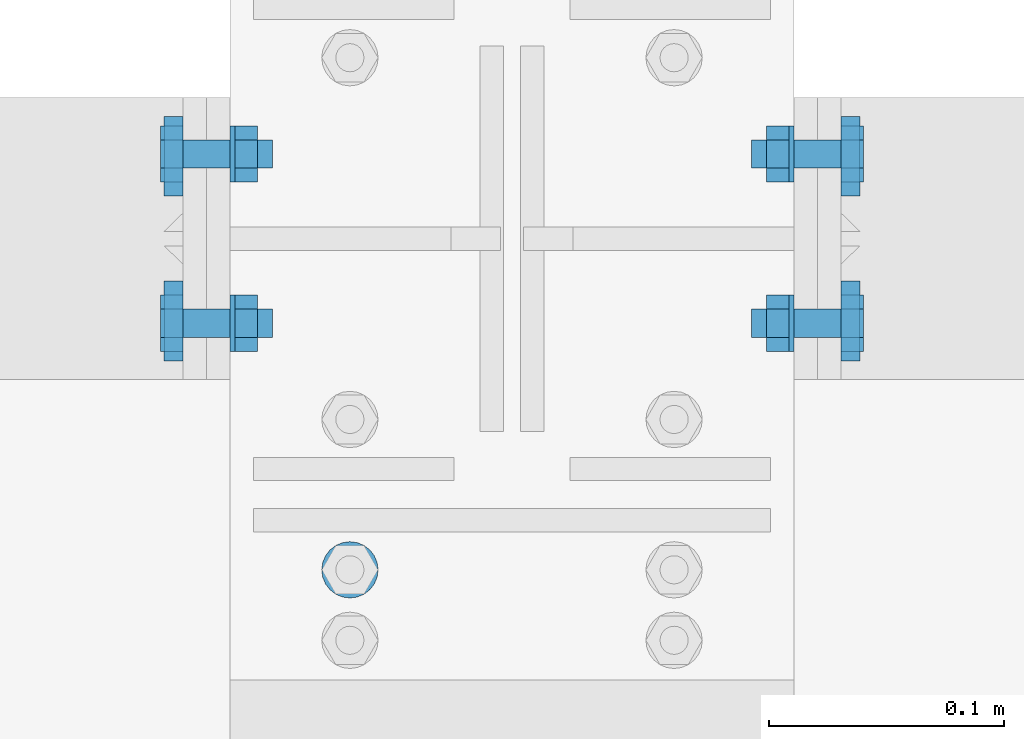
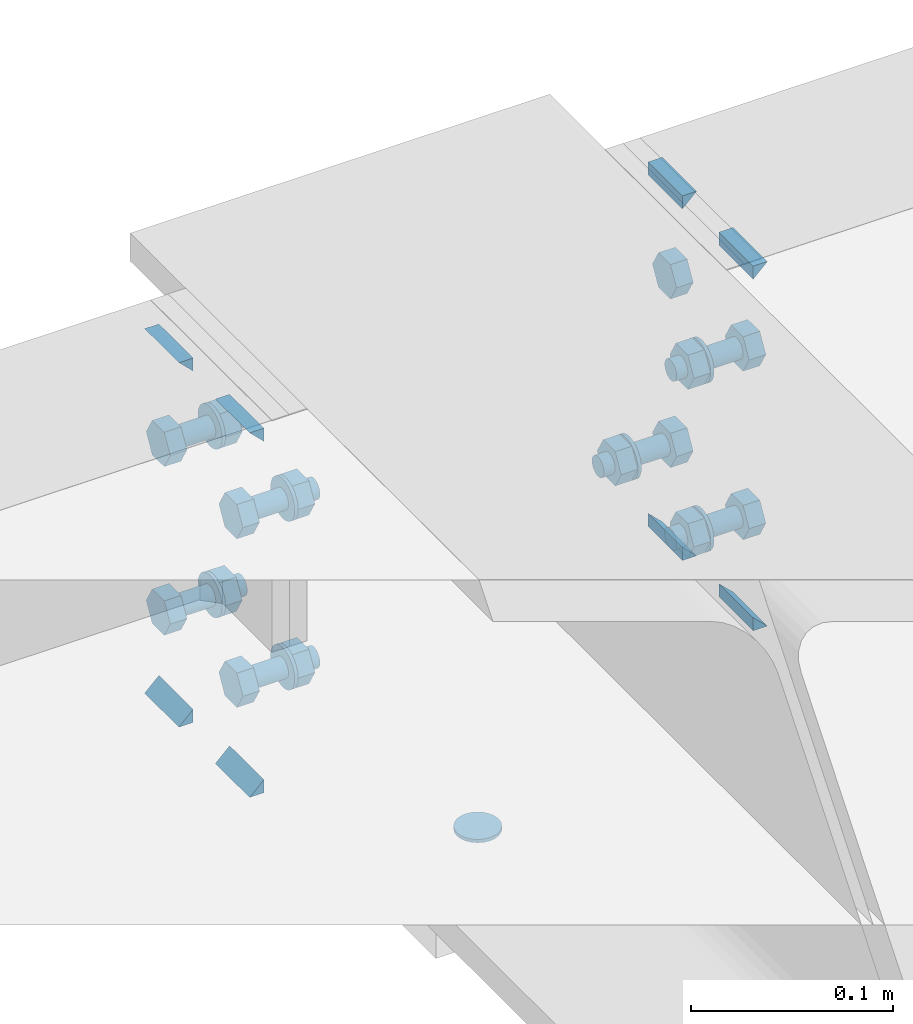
# One storey, part 45 of 66: 30 mechanical fasteners, 16 fasteners.
"""IFC4 building model written with IfcOpenShell, lengths in metres."""

import ifcopenshell
import ifcopenshell.guid

model = None  # the IFC model being written
_history = None  # IfcOwnerHistory: only IFC2X3 demands one
_inside = {}  # id of a spatial element -> (the spatial element, [elements in it])
_under = {}  # id of a project, library or spatial element -> (it, [spatial elements below it])
_declared = {}  # id of a project -> (the project, [libraries it declares])
_typed = {}  # id of a type object -> (the type object, [elements of that type])
_made_of = {}  # id of a material, layer set ... -> (it, [elements and type objects made of it])


def new_model(schema):
    """Start an empty IFC model of exactly this schema.

    Asked for "IFC4X3", IfcOpenShell would pick the latest addendum, in which some entities
    have other attributes; the version numbers below select the first issue.
    IFC2X3 requires an IfcOwnerHistory on every rooted entity: one is made here for all.
    """
    global model, _history
    if schema == "IFC4X3":
        model = ifcopenshell.file(schema_version=(4, 3, 0, 0))
    else:
        model = ifcopenshell.file(schema=schema)
    _inside.clear()
    _under.clear()
    _declared.clear()
    _typed.clear()
    _made_of.clear()
    _history = None
    if model.schema == "IFC2X3":
        org = make("IfcOrganization", Name="unknown")
        user = make(
            "IfcPersonAndOrganization",
            ThePerson=make("IfcPerson", FamilyName="unknown"),
            TheOrganization=org,
        )
        app = make(
            "IfcApplication",
            ApplicationDeveloper=org,
            Version="unknown",
            ApplicationFullName="unknown",
            ApplicationIdentifier="unknown",
        )
        _history = make(
            "IfcOwnerHistory",
            OwningUser=user,
            OwningApplication=app,
            ChangeAction="ADDED",
            CreationDate=0,
        )
    return model


def make(cls, **values):
    """One entity of the class cls with the attributes given. An attribute that is None is left unset."""
    return model.create_entity(
        cls, **{name: value for name, value in values.items() if value is not None}
    )


def rooted(cls, **values):
    """An entity with a GlobalId (a new one), such as an element, a storey or a relation."""
    return make(cls, GlobalId=ifcopenshell.guid.new(), OwnerHistory=_history, **values)


def si_unit(unit_type, name, prefix=None):
    """IfcSIUnit, for example si_unit("LENGTHUNIT", "METRE", prefix="MILLI")."""
    return make("IfcSIUnit", UnitType=unit_type, Prefix=prefix, Name=name)


def assignment(units):
    """IfcUnitAssignment: the units of a project."""
    return None if units is None else make("IfcUnitAssignment", Units=units)


def point(xyz):
    """IfcCartesianPoint."""
    return None if xyz is None else make("IfcCartesianPoint", Coordinates=xyz)


def direction(xyz):
    """IfcDirection."""
    return None if xyz is None else make("IfcDirection", DirectionRatios=xyz)


def frame(location, z_axis=None, x_axis=None):
    """IfcAxis2Placement3D, a coordinate frame: its origin and axes. An axis left out is left unset."""
    return make(
        "IfcAxis2Placement3D",
        Location=point(location),
        Axis=direction(z_axis),
        RefDirection=direction(x_axis),
    )


def origin_with_axes():
    """The frame at (0, 0, 0) with the z axis (0, 0, 1) and the x axis (1, 0, 0) written out."""
    return frame((0.0, 0.0, 0.0), z_axis=(0.0, 0.0, 1.0), x_axis=(1.0, 0.0, 0.0))


def place(relative_to, where):
    """IfcLocalPlacement: puts the frame where relative to a parent placement (None: the world)."""
    return make(
        "IfcLocalPlacement", PlacementRelTo=relative_to, RelativePlacement=where
    )


def context(
    kind, dimensions, precision=None, world=None, true_north=None, identifier=None
):
    """IfcGeometricRepresentationContext, for example the 3D "Model" context."""
    return make(
        "IfcGeometricRepresentationContext",
        ContextIdentifier=identifier,
        ContextType=kind,
        CoordinateSpaceDimension=dimensions,
        Precision=precision,
        WorldCoordinateSystem=world,
        TrueNorth=true_north,
    )


def project(units=None, contexts=None):
    """IfcProject with its units and contexts."""
    return rooted(
        "IfcProject",
        Name="project",
        RepresentationContexts=contexts,
        UnitsInContext=assignment(units),
    )


def spatial(cls, under=None, at=None, **own):
    """A site, building, storey or space (cls), placed at a placement, below another one or the project."""
    s = rooted(cls, ObjectPlacement=at, **own)
    if under is not None:
        _under.setdefault(under.id(), (under, []))[1].append(s)
    return s


def polyline(points):
    """IfcPolyline through the points."""
    return make("IfcPolyline", Points=[point(p) for p in points])


def outline(outer, holes=None, kind="AREA"):
    """IfcArbitraryClosedProfileDef: a profile drawn as a closed curve; with holes, ...WithVoids."""
    if holes is None:
        return make("IfcArbitraryClosedProfileDef", ProfileType=kind, OuterCurve=outer)
    return make(
        "IfcArbitraryProfileDefWithVoids",
        ProfileType=kind,
        OuterCurve=outer,
        InnerCurves=holes,
    )


def extrude(swept, where, along, depth):
    """IfcExtrudedAreaSolid: the profile swept, set in the frame where, extruded along a direction by depth."""
    return make(
        "IfcExtrudedAreaSolid",
        SweptArea=swept,
        Position=where,
        ExtrudedDirection=direction(along),
        Depth=depth,
    )


def shape(context_of_items, identifier, shape_type, items):
    """IfcShapeRepresentation: the items that make up one representation, for example the "Body"."""
    return make(
        "IfcShapeRepresentation",
        ContextOfItems=context_of_items,
        RepresentationIdentifier=identifier,
        RepresentationType=shape_type,
        Items=items,
    )


def made_of(thing, what):
    """Note that an element or type object is made of a material, layer set ...; save() writes the relation."""
    if what is not None:
        _made_of.setdefault(what.id(), (what, []))[1].append(thing)
    return thing


def type_object(cls, material=None, **own):
    """A type object (cls), such as IfcWallType, which elements share."""
    return made_of(rooted(cls, **own), material)


def element(
    cls,
    number,
    at=None,
    inside=None,
    cuts=None,
    type_object=None,
    material=None,
    context=None,
    identifier="Body",
    shape_type=None,
    held_by="IfcProductDefinitionShape",
    body=None,
    shapes=None,
    **own,
):
    """One element of the class cls, such as IfcWall. Its Tag is "e" and its number.

    at: its placement. inside: the storey or other place that contains it. cuts: it is an
    opening in that element (IfcRelVoidsElement). A single representation is given by context,
    identifier, shape_type and body (its items); several are given by shapes. held_by: the class
    of the entity that holds the representations. save() writes the other relations.
    """
    e = rooted(cls, Tag="e%d" % number, ObjectPlacement=at, **own)
    if body is not None:
        shapes = [shape(context, identifier, shape_type, body)]
    if shapes is not None:
        e.Representation = make(held_by, Representations=shapes)
    if inside is not None:
        _inside.setdefault(inside.id(), (inside, []))[1].append(e)
    if cuts is not None:
        rooted(
            "IfcRelVoidsElement", RelatingBuildingElement=cuts, RelatedOpeningElement=e
        )
    if type_object is not None:
        _typed.setdefault(type_object.id(), (type_object, []))[1].append(e)
    return made_of(e, material)


def aggregate(whole, parts):
    """IfcRelAggregates: a whole, such as a stair, and the parts it consists of."""
    return rooted("IfcRelAggregates", RelatingObject=whole, RelatedObjects=parts)


def save(model, path):
    """Write the relations noted so far, then the file.

    IfcRelAggregates (storeys below a building ...), IfcRelContainedInSpatialStructure (elements
    in a storey), IfcRelDefinesByType, IfcRelAssociatesMaterial and IfcRelDeclares: one each for
    every whole, place, type object, material and project.
    """
    for whole, parts in _under.values():
        aggregate(whole, parts)
    for where, things in _inside.values():
        rooted(
            "IfcRelContainedInSpatialStructure",
            RelatedElements=things,
            RelatingStructure=where,
        )
    for kind, things in _typed.values():
        rooted("IfcRelDefinesByType", RelatedObjects=things, RelatingType=kind)
    for what, things in _made_of.values():
        rooted("IfcRelAssociatesMaterial", RelatedObjects=things, RelatingMaterial=what)
    for by, libraries in _declared.values():
        rooted("IfcRelDeclares", RelatingContext=by, RelatedDefinitions=libraries)
    model.write(path)


model = new_model("IFC4")

# Units and contexts
model_context = context("Model", 3, precision=1e-05, world=origin_with_axes())
ifc_project = project(units=[si_unit("LENGTHUNIT", "METRE"), si_unit("AREAUNIT", "SQUARE_METRE"), si_unit("VOLUMEUNIT", "CUBIC_METRE"), si_unit("MASSUNIT", "GRAM", prefix="KILO"), si_unit("TIMEUNIT", "SECOND"), si_unit("PLANEANGLEUNIT", "RADIAN"), si_unit("SOLIDANGLEUNIT", "STERADIAN"), si_unit("THERMODYNAMICTEMPERATUREUNIT", "DEGREE_CELSIUS")], contexts=[model_context])

# Site, building, storey
placement_1 = place(None, origin_with_axes())
site = spatial("IfcSite", under=ifc_project, at=placement_1, Name="Italia", CompositionType="ELEMENT")
building = spatial("IfcBuilding", under=site, at=placement_1, Name="Uffici", CompositionType="ELEMENT")
storey_placement = place(None, frame((0.0, 0.0, 3.299999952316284), z_axis=(0.0, 0.0, 1.0), x_axis=(1.0, 0.0, 0.0)))
storey = spatial("IfcBuildingStorey", under=building, at=storey_placement, Name="Storey 1", CompositionType="ELEMENT", Elevation=3.299999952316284)

# Mechanical fastener
mechanical_fastener_type_1 = type_object("IfcMechanicalFastenerType", Name="Collegamenti 0111_0011 0112_0012 0113_0013 0114_0014 0115_0015", PredefinedType="BOLT")
placement_2 = place(placement_1, origin_with_axes())
mechanical_fastener_1_placement = place(placement_2, origin_with_axes())
element("IfcMechanicalFastener", 1, at=mechanical_fastener_1_placement, inside=storey, type_object=mechanical_fastener_type_1, Name="Collegamenti 0111_0011 0112_0012 0113_0013 0114_0014 0115_0015", NominalDiameter=0.024, context=model_context, shape_type="SweptSolid", body=[
    extrude(outline(polyline([(0.0, 0.0), (-0.000409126, -0.00310588), (-0.00160789, -0.00600004), (-0.00351477, -0.00848532), (-0.00600004, -0.0103922), (-0.00889444, -0.0115912), (-0.0120001, -0.0120001), (-0.0151057, -0.0115912), (-0.0180001, -0.0103922), (-0.0204854, -0.00848532), (-0.0223923, -0.00600004), (-0.023591, -0.00310588), (-0.0240002, 0.0), (-0.023591, 0.00310588), (-0.0223923, 0.00600004), (-0.0204854, 0.00848532), (-0.0180001, 0.0103922), (-0.0151057, 0.0115912), (-0.0120001, 0.0120001), (-0.00889444, 0.0115912), (-0.00600004, 0.0103922), (-0.00351477, 0.00848532), (-0.00160789, 0.00600004), (-0.000409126, 0.00310588), (0.0, 0.0)])), frame((3.136, 5.261, 3.079), z_axis=(0.0, 0.0, -1.0), x_axis=(0.0, 1.0, 0.0)), (0.0, 0.0, 1.0), 0.00200009),
])

# Fasteners
fastener_type_1 = type_object("IfcFastenerType", Name="Collegamento 0112_0111", PredefinedType="WELD")
fastener_1_placement = place(placement_2, origin_with_axes())
element("IfcFastener", 2, at=fastener_1_placement, inside=storey, type_object=fastener_type_1, Name="Collegamento 0112_0111", context=model_context, shape_type="SweptSolid", body=[
    extrude(outline(polyline([(0.0, 0.0), (-0.00817347, 0.00792813), (0.0, 0.00792813), (0.0, 0.0)])), frame((3.06505, 5.37195, 3.28232), z_axis=(0.0, -1.0, 0.0), x_axis=(1.0, 0.0, 0.0)), (0.0, 0.0, 1.0), 0.0340004),
])
fastener_type_2 = type_object("IfcFastenerType", Name="Collegamento 0112_0111", PredefinedType="WELD")
fastener_2_placement = place(placement_2, origin_with_axes())
element("IfcFastener", 3, at=fastener_2_placement, inside=storey, type_object=fastener_type_2, Name="Collegamento 0112_0111", context=model_context, shape_type="SweptSolid", body=[
    extrude(outline(polyline([(0.0, 0.0), (0.00817347, -0.00792813), (0.0, -0.00792813), (0.0, 0.0)])), frame((3.06505, 5.33795, 3.07768), z_axis=(0.0, 1.0, 0.0), x_axis=(-1.0, 0.0, 0.0)), (0.0, 0.0, 1.0), 0.0340004),
])
fastener_type_3 = type_object("IfcFastenerType", Name="Collegamento 0112_0111", PredefinedType="WELD")
fastener_3_placement = place(placement_2, origin_with_axes())
element("IfcFastener", 4, at=fastener_3_placement, inside=storey, type_object=fastener_type_3, Name="Collegamento 0112_0111", context=model_context, shape_type="SweptSolid", body=[
    extrude(outline(polyline([(0.0, 0.0), (0.00817347, -0.00792813), (0.0, -0.00792813), (0.0, 0.0)])), frame((3.06505, 5.40805, 3.07768), z_axis=(0.0, 1.0, 0.0), x_axis=(-1.0, 0.0, 0.0)), (0.0, 0.0, 1.0), 0.0340004),
])
fastener_type_4 = type_object("IfcFastenerType", Name="Collegamento 0112_0111", PredefinedType="WELD")
fastener_4_placement = place(placement_2, origin_with_axes())
element("IfcFastener", 5, at=fastener_4_placement, inside=storey, type_object=fastener_type_4, Name="Collegamento 0112_0111", context=model_context, shape_type="SweptSolid", body=[
    extrude(outline(polyline([(0.0, 0.0), (-0.00817347, 0.00792813), (0.0, 0.00792813), (0.0, 0.0)])), frame((3.06505, 5.44205, 3.28232), z_axis=(0.0, -1.0, 0.0), x_axis=(1.0, 0.0, 0.0)), (0.0, 0.0, 1.0), 0.0340004),
])
fastener_type_5 = type_object("IfcFastenerType", Name="Collegamento 0112_0111", PredefinedType="WELD")
fastener_5_placement = place(placement_2, origin_with_axes())
element("IfcFastener", 6, at=fastener_5_placement, inside=storey, type_object=fastener_type_5, Name="Collegamento 0112_0111", context=model_context, shape_type="SweptSolid", body=[
    extrude(outline(polyline([(0.0, 0.0), (-0.00817347, 0.00792813), (0.0, 0.00792813), (0.0, 0.0)])), frame((3.06505, 5.37195, 3.28232), z_axis=(0.0, -1.0, 0.0), x_axis=(1.0, 0.0, 0.0)), (0.0, 0.0, 1.0), 0.0340004),
])
fastener_type_6 = type_object("IfcFastenerType", Name="Collegamento 0112_0111", PredefinedType="WELD")
fastener_6_placement = place(placement_2, origin_with_axes())
element("IfcFastener", 7, at=fastener_6_placement, inside=storey, type_object=fastener_type_6, Name="Collegamento 0112_0111", context=model_context, shape_type="SweptSolid", body=[
    extrude(outline(polyline([(0.0, 0.0), (0.00817347, -0.00792813), (0.0, -0.00792813), (0.0, 0.0)])), frame((3.06505, 5.33795, 3.07768), z_axis=(0.0, 1.0, 0.0), x_axis=(-1.0, 0.0, 0.0)), (0.0, 0.0, 1.0), 0.0340004),
])
fastener_type_7 = type_object("IfcFastenerType", Name="Collegamento 0112_0111", PredefinedType="WELD")
fastener_7_placement = place(placement_2, origin_with_axes())
element("IfcFastener", 8, at=fastener_7_placement, inside=storey, type_object=fastener_type_7, Name="Collegamento 0112_0111", context=model_context, shape_type="SweptSolid", body=[
    extrude(outline(polyline([(0.0, 0.0), (0.00817347, -0.00792813), (0.0, -0.00792813), (0.0, 0.0)])), frame((3.06505, 5.40805, 3.07768), z_axis=(0.0, 1.0, 0.0), x_axis=(-1.0, 0.0, 0.0)), (0.0, 0.0, 1.0), 0.0340004),
])
fastener_type_8 = type_object("IfcFastenerType", Name="Collegamento 0112_0111", PredefinedType="WELD")
fastener_8_placement = place(placement_2, origin_with_axes())
element("IfcFastener", 9, at=fastener_8_placement, inside=storey, type_object=fastener_type_8, Name="Collegamento 0112_0111", context=model_context, shape_type="SweptSolid", body=[
    extrude(outline(polyline([(0.0, 0.0), (-0.00817347, 0.00792813), (0.0, 0.00792813), (0.0, 0.0)])), frame((3.06505, 5.44205, 3.28232), z_axis=(0.0, -1.0, 0.0), x_axis=(1.0, 0.0, 0.0)), (0.0, 0.0, 1.0), 0.0340004),
])

# Mechanical fasteners
mechanical_fastener_type_2 = type_object("IfcMechanicalFastenerType", Name="Collegamento 0112_0111", PredefinedType="BOLT")
mechanical_fastener_2_placement = place(placement_2, origin_with_axes())
element("IfcMechanicalFastener", 10, at=mechanical_fastener_2_placement, inside=storey, type_object=mechanical_fastener_type_2, Name="Collegamento 0112_0111", NominalDiameter=0.0119996, context=model_context, shape_type="SweptSolid", body=[
    extrude(outline(polyline([(0.0, 0.0), (-0.0119996, 0.0), (-0.0179996, 0.0103922), (-0.0119996, 0.0207846), (0.0, 0.0207846), (0.00600004, 0.0103922), (0.0, 0.0)])), frame((3.065, 5.42, 3.11861), z_axis=(-1.0, 0.0, 0.0), x_axis=(0.0, -1.0, 0.0)), (0.0, 0.0, 1.0), 0.00959992),
])
mechanical_fastener_type_3 = type_object("IfcMechanicalFastenerType", Name="Collegamento 0112_0111", PredefinedType="BOLT")
mechanical_fastener_3_placement = place(placement_2, origin_with_axes())
element("IfcMechanicalFastener", 11, at=mechanical_fastener_3_placement, inside=storey, type_object=mechanical_fastener_type_3, Name="Collegamento 0112_0111", NominalDiameter=0.012, context=model_context, shape_type="SweptSolid", body=[
    extrude(outline(polyline([(0.0, 0.0), (-0.000204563, -0.00155282), (-0.000803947, -0.00300002), (-0.00175762, -0.00424266), (-0.00300026, -0.00519609), (-0.00444698, -0.00579548), (-0.00600004, -0.00600004), (-0.0075531, -0.00579548), (-0.00899982, -0.00519609), (-0.0102425, -0.00424266), (-0.0111961, -0.00300002), (-0.0117955, -0.00155282), (-0.0120001, 0.0), (-0.0117955, 0.00155282), (-0.0111961, 0.00300002), (-0.0102425, 0.00424266), (-0.00899982, 0.00519609), (-0.0075531, 0.00579548), (-0.00600004, 0.00600004), (-0.00444698, 0.00579548), (-0.00300026, 0.00519609), (-0.00175762, 0.00424266), (-0.000803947, 0.00300002), (-0.000204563, 0.00155282), (0.0, 0.0)])), frame((3.103, 5.42, 3.129), z_axis=(-1.0, 0.0, 0.0), x_axis=(0.0, -1.0, 0.0)), (0.0, 0.0, 1.0), 0.0379999),
])
mechanical_fastener_type_4 = type_object("IfcMechanicalFastenerType", Name="Collegamento 0112_0111", PredefinedType="BOLT")
mechanical_fastener_4_placement = place(placement_2, origin_with_axes())
element("IfcMechanicalFastener", 12, at=mechanical_fastener_4_placement, inside=storey, type_object=mechanical_fastener_type_4, Name="Collegamento 0112_0111", NominalDiameter=0.0119996, context=model_context, shape_type="SweptSolid", body=[
    extrude(outline(polyline([(0.0, 0.0), (-0.0119996, 0.0), (-0.0179996, 0.0103922), (-0.0119996, 0.0207846), (0.0, 0.0207846), (0.00600004, 0.0103922), (0.0, 0.0)])), frame((3.0966, 5.42, 3.11861), z_axis=(-1.0, 0.0, 0.0), x_axis=(0.0, -1.0, 0.0)), (0.0, 0.0, 1.0), 0.00959992),
])
mechanical_fastener_type_5 = type_object("IfcMechanicalFastenerType", Name="Collegamento 0112_0111", PredefinedType="BOLT")
mechanical_fastener_5_placement = place(placement_2, origin_with_axes())
element("IfcMechanicalFastener", 13, at=mechanical_fastener_5_placement, inside=storey, type_object=mechanical_fastener_type_5, Name="Collegamento 0112_0111", NominalDiameter=0.024, context=model_context, shape_type="SweptSolid", body=[
    extrude(outline(polyline([(0.0, 0.0), (-0.000409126, -0.00310588), (-0.00160789, -0.00600004), (-0.00351477, -0.00848532), (-0.00600004, -0.0103922), (-0.00889444, -0.0115912), (-0.0120001, -0.0120001), (-0.0151057, -0.0115912), (-0.0180001, -0.0103922), (-0.0204854, -0.00848532), (-0.0223923, -0.00600004), (-0.023591, -0.00310588), (-0.0240002, 0.0), (-0.023591, 0.00310588), (-0.0223923, 0.00600004), (-0.0204854, 0.00848532), (-0.0180001, 0.0103922), (-0.0151057, 0.0115912), (-0.0120001, 0.0120001), (-0.00889444, 0.0115912), (-0.00600004, 0.0103922), (-0.00351477, 0.00848532), (-0.00160789, 0.00600004), (-0.000409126, 0.00310588), (0.0, 0.0)])), frame((3.087, 5.414, 3.129), z_axis=(-1.0, 0.0, 0.0), x_axis=(0.0, -1.0, 0.0)), (0.0, 0.0, 1.0), 0.00200009),
])
mechanical_fastener_type_6 = type_object("IfcMechanicalFastenerType", Name="Collegamento 0112_0111", PredefinedType="BOLT")
mechanical_fastener_6_placement = place(placement_2, origin_with_axes())
element("IfcMechanicalFastener", 14, at=mechanical_fastener_6_placement, inside=storey, type_object=mechanical_fastener_type_6, Name="Collegamento 0112_0111", NominalDiameter=0.0119996, context=model_context, shape_type="SweptSolid", body=[
    extrude(outline(polyline([(0.0, 0.0), (-0.0119996, 0.0), (-0.0179996, 0.0103922), (-0.0119996, 0.0207846), (0.0, 0.0207846), (0.00600004, 0.0103922), (0.0, 0.0)])), frame((3.065, 5.348, 3.11861), z_axis=(-1.0, 0.0, 0.0), x_axis=(0.0, -1.0, 0.0)), (0.0, 0.0, 1.0), 0.00959992),
])
mechanical_fastener_type_7 = type_object("IfcMechanicalFastenerType", Name="Collegamento 0112_0111", PredefinedType="BOLT")
mechanical_fastener_7_placement = place(placement_2, origin_with_axes())
element("IfcMechanicalFastener", 15, at=mechanical_fastener_7_placement, inside=storey, type_object=mechanical_fastener_type_7, Name="Collegamento 0112_0111", NominalDiameter=0.012, context=model_context, shape_type="SweptSolid", body=[
    extrude(outline(polyline([(0.0, 0.0), (-0.000204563, -0.00155282), (-0.000803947, -0.00300002), (-0.00175762, -0.00424266), (-0.00300026, -0.00519609), (-0.00444698, -0.00579548), (-0.00600004, -0.00600004), (-0.0075531, -0.00579548), (-0.00899982, -0.00519609), (-0.0102425, -0.00424266), (-0.0111961, -0.00300002), (-0.0117955, -0.00155282), (-0.0120001, 0.0), (-0.0117955, 0.00155282), (-0.0111961, 0.00300002), (-0.0102425, 0.00424266), (-0.00899982, 0.00519609), (-0.0075531, 0.00579548), (-0.00600004, 0.00600004), (-0.00444698, 0.00579548), (-0.00300026, 0.00519609), (-0.00175762, 0.00424266), (-0.000803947, 0.00300002), (-0.000204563, 0.00155282), (0.0, 0.0)])), frame((3.103, 5.348, 3.129), z_axis=(-1.0, 0.0, 0.0), x_axis=(0.0, -1.0, 0.0)), (0.0, 0.0, 1.0), 0.0379999),
])
mechanical_fastener_type_8 = type_object("IfcMechanicalFastenerType", Name="Collegamento 0112_0111", PredefinedType="BOLT")
mechanical_fastener_8_placement = place(placement_2, origin_with_axes())
element("IfcMechanicalFastener", 16, at=mechanical_fastener_8_placement, inside=storey, type_object=mechanical_fastener_type_8, Name="Collegamento 0112_0111", NominalDiameter=0.0119996, context=model_context, shape_type="SweptSolid", body=[
    extrude(outline(polyline([(0.0, 0.0), (-0.0119996, 0.0), (-0.0179996, 0.0103922), (-0.0119996, 0.0207846), (0.0, 0.0207846), (0.00600004, 0.0103922), (0.0, 0.0)])), frame((3.0966, 5.348, 3.11861), z_axis=(-1.0, 0.0, 0.0), x_axis=(0.0, -1.0, 0.0)), (0.0, 0.0, 1.0), 0.00959992),
])
mechanical_fastener_type_9 = type_object("IfcMechanicalFastenerType", Name="Collegamento 0112_0111", PredefinedType="BOLT")
mechanical_fastener_9_placement = place(placement_2, origin_with_axes())
element("IfcMechanicalFastener", 17, at=mechanical_fastener_9_placement, inside=storey, type_object=mechanical_fastener_type_9, Name="Collegamento 0112_0111", NominalDiameter=0.024, context=model_context, shape_type="SweptSolid", body=[
    extrude(outline(polyline([(0.0, 0.0), (-0.000409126, -0.00310588), (-0.00160789, -0.00600004), (-0.00351477, -0.00848532), (-0.00600004, -0.0103922), (-0.00889444, -0.0115912), (-0.0120001, -0.0120001), (-0.0151057, -0.0115912), (-0.0180001, -0.0103922), (-0.0204854, -0.00848532), (-0.0223923, -0.00600004), (-0.023591, -0.00310588), (-0.0240002, 0.0), (-0.023591, 0.00310588), (-0.0223923, 0.00600004), (-0.0204854, 0.00848532), (-0.0180001, 0.0103922), (-0.0151057, 0.0115912), (-0.0120001, 0.0120001), (-0.00889444, 0.0115912), (-0.00600004, 0.0103922), (-0.00351477, 0.00848532), (-0.00160789, 0.00600004), (-0.000409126, 0.00310588), (0.0, 0.0)])), frame((3.087, 5.342, 3.129), z_axis=(-1.0, 0.0, 0.0), x_axis=(0.0, -1.0, 0.0)), (0.0, 0.0, 1.0), 0.00200009),
])
mechanical_fastener_type_10 = type_object("IfcMechanicalFastenerType", Name="Collegamento 0112_0111", PredefinedType="BOLT")
mechanical_fastener_10_placement = place(placement_2, origin_with_axes())
element("IfcMechanicalFastener", 18, at=mechanical_fastener_10_placement, inside=storey, type_object=mechanical_fastener_type_10, Name="Collegamento 0112_0111", NominalDiameter=0.0119996, context=model_context, shape_type="SweptSolid", body=[
    extrude(outline(polyline([(0.0, 0.0), (-0.0119996, 0.0), (-0.0179996, 0.0103924), (-0.0119996, 0.0207846), (0.0, 0.0207846), (0.00600004, 0.0103924), (0.0, 0.0)])), frame((3.065, 5.42, 3.22061), z_axis=(-1.0, 0.0, 0.0), x_axis=(0.0, -1.0, 0.0)), (0.0, 0.0, 1.0), 0.00959992),
])
mechanical_fastener_type_11 = type_object("IfcMechanicalFastenerType", Name="Collegamento 0112_0111", PredefinedType="BOLT")
mechanical_fastener_11_placement = place(placement_2, origin_with_axes())
element("IfcMechanicalFastener", 19, at=mechanical_fastener_11_placement, inside=storey, type_object=mechanical_fastener_type_11, Name="Collegamento 0112_0111", NominalDiameter=0.012, context=model_context, shape_type="SweptSolid", body=[
    extrude(outline(polyline([(0.0, 0.0), (-0.000204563, -0.00155282), (-0.000803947, -0.00300002), (-0.00175762, -0.00424266), (-0.00300026, -0.00519609), (-0.00444698, -0.00579548), (-0.00600004, -0.00600004), (-0.0075531, -0.00579548), (-0.00899982, -0.00519609), (-0.0102425, -0.00424266), (-0.0111961, -0.00300002), (-0.0117955, -0.00155282), (-0.0120001, 0.0), (-0.0117955, 0.00155282), (-0.0111961, 0.00300002), (-0.0102425, 0.00424266), (-0.00899982, 0.00519609), (-0.0075531, 0.00579548), (-0.00600004, 0.00600004), (-0.00444698, 0.00579548), (-0.00300026, 0.00519609), (-0.00175762, 0.00424266), (-0.000803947, 0.00300002), (-0.000204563, 0.00155282), (0.0, 0.0)])), frame((3.103, 5.42, 3.231), z_axis=(-1.0, 0.0, 0.0), x_axis=(0.0, -1.0, 0.0)), (0.0, 0.0, 1.0), 0.0379999),
])
mechanical_fastener_type_12 = type_object("IfcMechanicalFastenerType", Name="Collegamento 0112_0111", PredefinedType="BOLT")
mechanical_fastener_12_placement = place(placement_2, origin_with_axes())
element("IfcMechanicalFastener", 20, at=mechanical_fastener_12_placement, inside=storey, type_object=mechanical_fastener_type_12, Name="Collegamento 0112_0111", NominalDiameter=0.0119996, context=model_context, shape_type="SweptSolid", body=[
    extrude(outline(polyline([(0.0, 0.0), (-0.0119996, 0.0), (-0.0179996, 0.0103924), (-0.0119996, 0.0207846), (0.0, 0.0207846), (0.00600004, 0.0103924), (0.0, 0.0)])), frame((3.0966, 5.42, 3.22061), z_axis=(-1.0, 0.0, 0.0), x_axis=(0.0, -1.0, 0.0)), (0.0, 0.0, 1.0), 0.00959992),
])
mechanical_fastener_type_13 = type_object("IfcMechanicalFastenerType", Name="Collegamento 0112_0111", PredefinedType="BOLT")
mechanical_fastener_13_placement = place(placement_2, origin_with_axes())
element("IfcMechanicalFastener", 21, at=mechanical_fastener_13_placement, inside=storey, type_object=mechanical_fastener_type_13, Name="Collegamento 0112_0111", NominalDiameter=0.024, context=model_context, shape_type="SweptSolid", body=[
    extrude(outline(polyline([(0.0, 0.0), (-0.000409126, -0.00310588), (-0.00160789, -0.00600004), (-0.00351477, -0.00848532), (-0.00600004, -0.0103922), (-0.00889444, -0.0115912), (-0.0120001, -0.0120001), (-0.0151057, -0.0115912), (-0.0180001, -0.0103922), (-0.0204854, -0.00848532), (-0.0223923, -0.00600004), (-0.023591, -0.00310588), (-0.0240002, 0.0), (-0.023591, 0.00310588), (-0.0223923, 0.00600004), (-0.0204854, 0.00848532), (-0.0180001, 0.0103922), (-0.0151057, 0.0115912), (-0.0120001, 0.0120001), (-0.00889444, 0.0115912), (-0.00600004, 0.0103922), (-0.00351477, 0.00848532), (-0.00160789, 0.00600004), (-0.000409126, 0.00310588), (0.0, 0.0)])), frame((3.087, 5.414, 3.231), z_axis=(-1.0, 0.0, 0.0), x_axis=(0.0, -1.0, 0.0)), (0.0, 0.0, 1.0), 0.00200009),
])
mechanical_fastener_type_14 = type_object("IfcMechanicalFastenerType", Name="Collegamento 0112_0111", PredefinedType="BOLT")
mechanical_fastener_14_placement = place(placement_2, origin_with_axes())
element("IfcMechanicalFastener", 22, at=mechanical_fastener_14_placement, inside=storey, type_object=mechanical_fastener_type_14, Name="Collegamento 0112_0111", NominalDiameter=0.0119996, context=model_context, shape_type="SweptSolid", body=[
    extrude(outline(polyline([(0.0, 0.0), (-0.0119996, 0.0), (-0.0179996, 0.0103924), (-0.0119996, 0.0207846), (0.0, 0.0207846), (0.00600004, 0.0103924), (0.0, 0.0)])), frame((3.065, 5.348, 3.22061), z_axis=(-1.0, 0.0, 0.0), x_axis=(0.0, -1.0, 0.0)), (0.0, 0.0, 1.0), 0.00959992),
])
mechanical_fastener_type_15 = type_object("IfcMechanicalFastenerType", Name="Collegamento 0112_0111", PredefinedType="BOLT")
mechanical_fastener_15_placement = place(placement_2, origin_with_axes())
element("IfcMechanicalFastener", 23, at=mechanical_fastener_15_placement, inside=storey, type_object=mechanical_fastener_type_15, Name="Collegamento 0112_0111", NominalDiameter=0.012, context=model_context, shape_type="SweptSolid", body=[
    extrude(outline(polyline([(0.0, 0.0), (-0.000204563, -0.00155282), (-0.000803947, -0.00300002), (-0.00175762, -0.00424266), (-0.00300026, -0.00519609), (-0.00444698, -0.00579548), (-0.00600004, -0.00600004), (-0.0075531, -0.00579548), (-0.00899982, -0.00519609), (-0.0102425, -0.00424266), (-0.0111961, -0.00300002), (-0.0117955, -0.00155282), (-0.0120001, 0.0), (-0.0117955, 0.00155282), (-0.0111961, 0.00300002), (-0.0102425, 0.00424266), (-0.00899982, 0.00519609), (-0.0075531, 0.00579548), (-0.00600004, 0.00600004), (-0.00444698, 0.00579548), (-0.00300026, 0.00519609), (-0.00175762, 0.00424266), (-0.000803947, 0.00300002), (-0.000204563, 0.00155282), (0.0, 0.0)])), frame((3.103, 5.348, 3.231), z_axis=(-1.0, 0.0, 0.0), x_axis=(0.0, -1.0, 0.0)), (0.0, 0.0, 1.0), 0.0379999),
])
mechanical_fastener_type_16 = type_object("IfcMechanicalFastenerType", Name="Collegamento 0112_0111", PredefinedType="BOLT")
mechanical_fastener_16_placement = place(placement_2, origin_with_axes())
element("IfcMechanicalFastener", 24, at=mechanical_fastener_16_placement, inside=storey, type_object=mechanical_fastener_type_16, Name="Collegamento 0112_0111", NominalDiameter=0.0119996, context=model_context, shape_type="SweptSolid", body=[
    extrude(outline(polyline([(0.0, 0.0), (-0.0119996, 0.0), (-0.0179996, 0.0103924), (-0.0119996, 0.0207846), (0.0, 0.0207846), (0.00600004, 0.0103924), (0.0, 0.0)])), frame((3.0966, 5.348, 3.22061), z_axis=(-1.0, 0.0, 0.0), x_axis=(0.0, -1.0, 0.0)), (0.0, 0.0, 1.0), 0.00959992),
])
mechanical_fastener_type_17 = type_object("IfcMechanicalFastenerType", Name="Collegamento 0112_0111", PredefinedType="BOLT")
mechanical_fastener_17_placement = place(placement_2, origin_with_axes())
element("IfcMechanicalFastener", 25, at=mechanical_fastener_17_placement, inside=storey, type_object=mechanical_fastener_type_17, Name="Collegamento 0112_0111", NominalDiameter=0.024, context=model_context, shape_type="SweptSolid", body=[
    extrude(outline(polyline([(0.0, 0.0), (-0.000409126, -0.00310588), (-0.00160789, -0.00600004), (-0.00351477, -0.00848532), (-0.00600004, -0.0103922), (-0.00889444, -0.0115912), (-0.0120001, -0.0120001), (-0.0151057, -0.0115912), (-0.0180001, -0.0103922), (-0.0204854, -0.00848532), (-0.0223923, -0.00600004), (-0.023591, -0.00310588), (-0.0240002, 0.0), (-0.023591, 0.00310588), (-0.0223923, 0.00600004), (-0.0204854, 0.00848532), (-0.0180001, 0.0103922), (-0.0151057, 0.0115912), (-0.0120001, 0.0120001), (-0.00889444, 0.0115912), (-0.00600004, 0.0103922), (-0.00351477, 0.00848532), (-0.00160789, 0.00600004), (-0.000409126, 0.00310588), (0.0, 0.0)])), frame((3.087, 5.342, 3.231), z_axis=(-1.0, 0.0, 0.0), x_axis=(0.0, -1.0, 0.0)), (0.0, 0.0, 1.0), 0.00200009),
])

# Fasteners
fastener_type_9 = type_object("IfcFastenerType", Name="Collegamento 0112_0113", PredefinedType="WELD")
fastener_9_placement = place(placement_2, origin_with_axes())
element("IfcFastener", 26, at=fastener_9_placement, inside=storey, type_object=fastener_type_9, Name="Collegamento 0112_0113", context=model_context, shape_type="SweptSolid", body=[
    extrude(outline(polyline([(0.0, 0.0), (-0.00817347, 0.00792813), (0.0, 0.00792813), (0.0, 0.0)])), frame((3.34495, 5.33795, 3.28232), z_axis=(0.0, 1.0, 0.0), x_axis=(-1.0, 0.0, 0.0)), (0.0, 0.0, 1.0), 0.0340004),
])
fastener_type_10 = type_object("IfcFastenerType", Name="Collegamento 0112_0113", PredefinedType="WELD")
fastener_10_placement = place(placement_2, origin_with_axes())
element("IfcFastener", 27, at=fastener_10_placement, inside=storey, type_object=fastener_type_10, Name="Collegamento 0112_0113", context=model_context, shape_type="SweptSolid", body=[
    extrude(outline(polyline([(0.0, 0.0), (0.00817347, -0.00792813), (0.0, -0.00792813), (0.0, 0.0)])), frame((3.34495, 5.37195, 3.07768), z_axis=(0.0, -1.0, 0.0), x_axis=(1.0, 0.0, 0.0)), (0.0, 0.0, 1.0), 0.0340004),
])
fastener_type_11 = type_object("IfcFastenerType", Name="Collegamento 0112_0113", PredefinedType="WELD")
fastener_11_placement = place(placement_2, origin_with_axes())
element("IfcFastener", 28, at=fastener_11_placement, inside=storey, type_object=fastener_type_11, Name="Collegamento 0112_0113", context=model_context, shape_type="SweptSolid", body=[
    extrude(outline(polyline([(0.0, 0.0), (0.00817347, -0.00792813), (0.0, -0.00792813), (0.0, 0.0)])), frame((3.34495, 5.44205, 3.07768), z_axis=(0.0, -1.0, 0.0), x_axis=(1.0, 0.0, 0.0)), (0.0, 0.0, 1.0), 0.0340004),
])
fastener_type_12 = type_object("IfcFastenerType", Name="Collegamento 0112_0113", PredefinedType="WELD")
fastener_12_placement = place(placement_2, origin_with_axes())
element("IfcFastener", 29, at=fastener_12_placement, inside=storey, type_object=fastener_type_12, Name="Collegamento 0112_0113", context=model_context, shape_type="SweptSolid", body=[
    extrude(outline(polyline([(0.0, 0.0), (-0.00817347, 0.00792813), (0.0, 0.00792813), (0.0, 0.0)])), frame((3.34495, 5.40805, 3.28232), z_axis=(0.0, 1.0, 0.0), x_axis=(-1.0, 0.0, 0.0)), (0.0, 0.0, 1.0), 0.0340004),
])
fastener_type_13 = type_object("IfcFastenerType", Name="Collegamento 0112_0113", PredefinedType="WELD")
fastener_13_placement = place(placement_2, origin_with_axes())
element("IfcFastener", 30, at=fastener_13_placement, inside=storey, type_object=fastener_type_13, Name="Collegamento 0112_0113", context=model_context, shape_type="SweptSolid", body=[
    extrude(outline(polyline([(0.0, 0.0), (-0.00817347, 0.00792813), (0.0, 0.00792813), (0.0, 0.0)])), frame((3.34495, 5.33795, 3.28232), z_axis=(0.0, 1.0, 0.0), x_axis=(-1.0, 0.0, 0.0)), (0.0, 0.0, 1.0), 0.0340004),
])
fastener_type_14 = type_object("IfcFastenerType", Name="Collegamento 0112_0113", PredefinedType="WELD")
fastener_14_placement = place(placement_2, origin_with_axes())
element("IfcFastener", 31, at=fastener_14_placement, inside=storey, type_object=fastener_type_14, Name="Collegamento 0112_0113", context=model_context, shape_type="SweptSolid", body=[
    extrude(outline(polyline([(0.0, 0.0), (0.00817347, -0.00792813), (0.0, -0.00792813), (0.0, 0.0)])), frame((3.34495, 5.37195, 3.07768), z_axis=(0.0, -1.0, 0.0), x_axis=(1.0, 0.0, 0.0)), (0.0, 0.0, 1.0), 0.0340004),
])
fastener_type_15 = type_object("IfcFastenerType", Name="Collegamento 0112_0113", PredefinedType="WELD")
fastener_15_placement = place(placement_2, origin_with_axes())
element("IfcFastener", 32, at=fastener_15_placement, inside=storey, type_object=fastener_type_15, Name="Collegamento 0112_0113", context=model_context, shape_type="SweptSolid", body=[
    extrude(outline(polyline([(0.0, 0.0), (0.00817347, -0.00792813), (0.0, -0.00792813), (0.0, 0.0)])), frame((3.34495, 5.44205, 3.07768), z_axis=(0.0, -1.0, 0.0), x_axis=(1.0, 0.0, 0.0)), (0.0, 0.0, 1.0), 0.0340004),
])
fastener_type_16 = type_object("IfcFastenerType", Name="Collegamento 0112_0113", PredefinedType="WELD")
fastener_16_placement = place(placement_2, origin_with_axes())
element("IfcFastener", 33, at=fastener_16_placement, inside=storey, type_object=fastener_type_16, Name="Collegamento 0112_0113", context=model_context, shape_type="SweptSolid", body=[
    extrude(outline(polyline([(0.0, 0.0), (-0.00817347, 0.00792813), (0.0, 0.00792813), (0.0, 0.0)])), frame((3.34495, 5.40805, 3.28232), z_axis=(0.0, 1.0, 0.0), x_axis=(-1.0, 0.0, 0.0)), (0.0, 0.0, 1.0), 0.0340004),
])

# Mechanical fasteners
mechanical_fastener_type_18 = type_object("IfcMechanicalFastenerType", Name="Collegamento 0112_0113", PredefinedType="BOLT")
mechanical_fastener_18_placement = place(placement_2, origin_with_axes())
element("IfcMechanicalFastener", 34, at=mechanical_fastener_18_placement, inside=storey, type_object=mechanical_fastener_type_18, Name="Collegamento 0112_0113", NominalDiameter=0.0119996, context=model_context, shape_type="SweptSolid", body=[
    extrude(outline(polyline([(0.0, 0.0), (-0.0119996, 0.0), (-0.0179996, 0.0103922), (-0.0119996, 0.0207846), (0.0, 0.0207846), (0.00600004, 0.0103922), (0.0, 0.0)])), frame((3.345, 5.36, 3.11861), z_axis=(1.0, 0.0, 0.0), x_axis=(0.0, 1.0, 0.0)), (0.0, 0.0, 1.0), 0.00959992),
])
mechanical_fastener_type_19 = type_object("IfcMechanicalFastenerType", Name="Collegamento 0112_0113", PredefinedType="BOLT")
mechanical_fastener_19_placement = place(placement_2, origin_with_axes())
element("IfcMechanicalFastener", 35, at=mechanical_fastener_19_placement, inside=storey, type_object=mechanical_fastener_type_19, Name="Collegamento 0112_0113", NominalDiameter=0.012, context=model_context, shape_type="SweptSolid", body=[
    extrude(outline(polyline([(0.0, 0.0), (-0.000204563, -0.00155282), (-0.000803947, -0.00300002), (-0.00175762, -0.00424266), (-0.00300026, -0.00519609), (-0.00444698, -0.00579548), (-0.00600004, -0.00600004), (-0.0075531, -0.00579548), (-0.00899982, -0.00519609), (-0.0102425, -0.00424266), (-0.0111961, -0.00300002), (-0.0117955, -0.00155282), (-0.0120001, 0.0), (-0.0117955, 0.00155282), (-0.0111961, 0.00300002), (-0.0102425, 0.00424266), (-0.00899982, 0.00519609), (-0.0075531, 0.00579548), (-0.00600004, 0.00600004), (-0.00444698, 0.00579548), (-0.00300026, 0.00519609), (-0.00175762, 0.00424266), (-0.000803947, 0.00300002), (-0.000204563, 0.00155282), (0.0, 0.0)])), frame((3.307, 5.36, 3.129), z_axis=(1.0, 0.0, 0.0), x_axis=(0.0, 1.0, 0.0)), (0.0, 0.0, 1.0), 0.0379999),
])
mechanical_fastener_type_20 = type_object("IfcMechanicalFastenerType", Name="Collegamento 0112_0113", PredefinedType="BOLT")
mechanical_fastener_20_placement = place(placement_2, origin_with_axes())
element("IfcMechanicalFastener", 36, at=mechanical_fastener_20_placement, inside=storey, type_object=mechanical_fastener_type_20, Name="Collegamento 0112_0113", NominalDiameter=0.0119996, context=model_context, shape_type="SweptSolid", body=[
    extrude(outline(polyline([(0.0, 0.0), (-0.0119996, 0.0), (-0.0179996, 0.0103922), (-0.0119996, 0.0207846), (0.0, 0.0207846), (0.00600004, 0.0103922), (0.0, 0.0)])), frame((3.3134, 5.36, 3.11861), z_axis=(1.0, 0.0, 0.0), x_axis=(0.0, 1.0, 0.0)), (0.0, 0.0, 1.0), 0.00959992),
])
mechanical_fastener_type_21 = type_object("IfcMechanicalFastenerType", Name="Collegamento 0112_0113", PredefinedType="BOLT")
mechanical_fastener_21_placement = place(placement_2, origin_with_axes())
element("IfcMechanicalFastener", 37, at=mechanical_fastener_21_placement, inside=storey, type_object=mechanical_fastener_type_21, Name="Collegamento 0112_0113", NominalDiameter=0.024, context=model_context, shape_type="SweptSolid", body=[
    extrude(outline(polyline([(0.0, 0.0), (-0.000409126, -0.00310588), (-0.00160789, -0.00600004), (-0.00351477, -0.00848532), (-0.00600004, -0.0103922), (-0.00889444, -0.0115912), (-0.0120001, -0.0120001), (-0.0151057, -0.0115912), (-0.0180001, -0.0103922), (-0.0204854, -0.00848532), (-0.0223923, -0.00600004), (-0.023591, -0.00310588), (-0.0240002, 0.0), (-0.023591, 0.00310588), (-0.0223923, 0.00600004), (-0.0204854, 0.00848532), (-0.0180001, 0.0103922), (-0.0151057, 0.0115912), (-0.0120001, 0.0120001), (-0.00889444, 0.0115912), (-0.00600004, 0.0103922), (-0.00351477, 0.00848532), (-0.00160789, 0.00600004), (-0.000409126, 0.00310588), (0.0, 0.0)])), frame((3.323, 5.366, 3.129), z_axis=(1.0, 0.0, 0.0), x_axis=(0.0, 1.0, 0.0)), (0.0, 0.0, 1.0), 0.00200009),
])
mechanical_fastener_type_22 = type_object("IfcMechanicalFastenerType", Name="Collegamento 0112_0113", PredefinedType="BOLT")
mechanical_fastener_22_placement = place(placement_2, origin_with_axes())
element("IfcMechanicalFastener", 38, at=mechanical_fastener_22_placement, inside=storey, type_object=mechanical_fastener_type_22, Name="Collegamento 0112_0113", NominalDiameter=0.0119996, context=model_context, shape_type="SweptSolid", body=[
    extrude(outline(polyline([(0.0, 0.0), (-0.0119996, 0.0), (-0.0179996, 0.0103922), (-0.0119996, 0.0207846), (0.0, 0.0207846), (0.00600004, 0.0103922), (0.0, 0.0)])), frame((3.345, 5.432, 3.11861), z_axis=(1.0, 0.0, 0.0), x_axis=(0.0, 1.0, 0.0)), (0.0, 0.0, 1.0), 0.00959992),
])
mechanical_fastener_type_23 = type_object("IfcMechanicalFastenerType", Name="Collegamento 0112_0113", PredefinedType="BOLT")
mechanical_fastener_23_placement = place(placement_2, origin_with_axes())
element("IfcMechanicalFastener", 39, at=mechanical_fastener_23_placement, inside=storey, type_object=mechanical_fastener_type_23, Name="Collegamento 0112_0113", NominalDiameter=0.012, context=model_context, shape_type="SweptSolid", body=[
    extrude(outline(polyline([(0.0, 0.0), (-0.000204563, -0.00155282), (-0.000803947, -0.00300002), (-0.00175762, -0.00424266), (-0.00300026, -0.00519609), (-0.00444698, -0.00579548), (-0.00600004, -0.00600004), (-0.0075531, -0.00579548), (-0.00899982, -0.00519609), (-0.0102425, -0.00424266), (-0.0111961, -0.00300002), (-0.0117955, -0.00155282), (-0.0120001, 0.0), (-0.0117955, 0.00155282), (-0.0111961, 0.00300002), (-0.0102425, 0.00424266), (-0.00899982, 0.00519609), (-0.0075531, 0.00579548), (-0.00600004, 0.00600004), (-0.00444698, 0.00579548), (-0.00300026, 0.00519609), (-0.00175762, 0.00424266), (-0.000803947, 0.00300002), (-0.000204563, 0.00155282), (0.0, 0.0)])), frame((3.307, 5.432, 3.129), z_axis=(1.0, 0.0, 0.0), x_axis=(0.0, 1.0, 0.0)), (0.0, 0.0, 1.0), 0.0379999),
])
mechanical_fastener_type_24 = type_object("IfcMechanicalFastenerType", Name="Collegamento 0112_0113", PredefinedType="BOLT")
mechanical_fastener_24_placement = place(placement_2, origin_with_axes())
element("IfcMechanicalFastener", 40, at=mechanical_fastener_24_placement, inside=storey, type_object=mechanical_fastener_type_24, Name="Collegamento 0112_0113", NominalDiameter=0.0119996, context=model_context, shape_type="SweptSolid", body=[
    extrude(outline(polyline([(0.0, 0.0), (-0.0119996, 0.0), (-0.0179996, 0.0103922), (-0.0119996, 0.0207846), (0.0, 0.0207846), (0.00600004, 0.0103922), (0.0, 0.0)])), frame((3.3134, 5.432, 3.11861), z_axis=(1.0, 0.0, 0.0), x_axis=(0.0, 1.0, 0.0)), (0.0, 0.0, 1.0), 0.00959992),
])
mechanical_fastener_type_25 = type_object("IfcMechanicalFastenerType", Name="Collegamento 0112_0113", PredefinedType="BOLT")
mechanical_fastener_25_placement = place(placement_2, origin_with_axes())
element("IfcMechanicalFastener", 41, at=mechanical_fastener_25_placement, inside=storey, type_object=mechanical_fastener_type_25, Name="Collegamento 0112_0113", NominalDiameter=0.024, context=model_context, shape_type="SweptSolid", body=[
    extrude(outline(polyline([(0.0, 0.0), (-0.000409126, -0.00310588), (-0.00160789, -0.00600004), (-0.00351477, -0.00848532), (-0.00600004, -0.0103922), (-0.00889444, -0.0115912), (-0.0120001, -0.0120001), (-0.0151057, -0.0115912), (-0.0180001, -0.0103922), (-0.0204854, -0.00848532), (-0.0223923, -0.00600004), (-0.023591, -0.00310588), (-0.0240002, 0.0), (-0.023591, 0.00310588), (-0.0223923, 0.00600004), (-0.0204854, 0.00848532), (-0.0180001, 0.0103922), (-0.0151057, 0.0115912), (-0.0120001, 0.0120001), (-0.00889444, 0.0115912), (-0.00600004, 0.0103922), (-0.00351477, 0.00848532), (-0.00160789, 0.00600004), (-0.000409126, 0.00310588), (0.0, 0.0)])), frame((3.323, 5.438, 3.129), z_axis=(1.0, 0.0, 0.0), x_axis=(0.0, 1.0, 0.0)), (0.0, 0.0, 1.0), 0.00200009),
])
mechanical_fastener_type_26 = type_object("IfcMechanicalFastenerType", Name="Collegamento 0112_0113", PredefinedType="BOLT")
mechanical_fastener_26_placement = place(placement_2, origin_with_axes())
element("IfcMechanicalFastener", 42, at=mechanical_fastener_26_placement, inside=storey, type_object=mechanical_fastener_type_26, Name="Collegamento 0112_0113", NominalDiameter=0.0119996, context=model_context, shape_type="SweptSolid", body=[
    extrude(outline(polyline([(0.0, 0.0), (-0.0119996, 0.0), (-0.0179996, 0.0103924), (-0.0119996, 0.0207846), (0.0, 0.0207846), (0.00600004, 0.0103924), (0.0, 0.0)])), frame((3.345, 5.36, 3.22061), z_axis=(1.0, 0.0, 0.0), x_axis=(0.0, 1.0, 0.0)), (0.0, 0.0, 1.0), 0.00959992),
])
mechanical_fastener_type_27 = type_object("IfcMechanicalFastenerType", Name="Collegamento 0112_0113", PredefinedType="BOLT")
mechanical_fastener_27_placement = place(placement_2, origin_with_axes())
element("IfcMechanicalFastener", 43, at=mechanical_fastener_27_placement, inside=storey, type_object=mechanical_fastener_type_27, Name="Collegamento 0112_0113", NominalDiameter=0.012, context=model_context, shape_type="SweptSolid", body=[
    extrude(outline(polyline([(0.0, 0.0), (-0.000204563, -0.00155282), (-0.000803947, -0.00300002), (-0.00175762, -0.00424266), (-0.00300026, -0.00519609), (-0.00444698, -0.00579548), (-0.00600004, -0.00600004), (-0.0075531, -0.00579548), (-0.00899982, -0.00519609), (-0.0102425, -0.00424266), (-0.0111961, -0.00300002), (-0.0117955, -0.00155282), (-0.0120001, 0.0), (-0.0117955, 0.00155282), (-0.0111961, 0.00300002), (-0.0102425, 0.00424266), (-0.00899982, 0.00519609), (-0.0075531, 0.00579548), (-0.00600004, 0.00600004), (-0.00444698, 0.00579548), (-0.00300026, 0.00519609), (-0.00175762, 0.00424266), (-0.000803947, 0.00300002), (-0.000204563, 0.00155282), (0.0, 0.0)])), frame((3.307, 5.36, 3.231), z_axis=(1.0, 0.0, 0.0), x_axis=(0.0, 1.0, 0.0)), (0.0, 0.0, 1.0), 0.0379999),
])
mechanical_fastener_type_28 = type_object("IfcMechanicalFastenerType", Name="Collegamento 0112_0113", PredefinedType="BOLT")
mechanical_fastener_28_placement = place(placement_2, origin_with_axes())
element("IfcMechanicalFastener", 44, at=mechanical_fastener_28_placement, inside=storey, type_object=mechanical_fastener_type_28, Name="Collegamento 0112_0113", NominalDiameter=0.0119996, context=model_context, shape_type="SweptSolid", body=[
    extrude(outline(polyline([(0.0, 0.0), (-0.0119996, 0.0), (-0.0179996, 0.0103924), (-0.0119996, 0.0207846), (0.0, 0.0207846), (0.00600004, 0.0103924), (0.0, 0.0)])), frame((3.3134, 5.36, 3.22061), z_axis=(1.0, 0.0, 0.0), x_axis=(0.0, 1.0, 0.0)), (0.0, 0.0, 1.0), 0.00959992),
])
mechanical_fastener_type_29 = type_object("IfcMechanicalFastenerType", Name="Collegamento 0112_0113", PredefinedType="BOLT")
mechanical_fastener_29_placement = place(placement_2, origin_with_axes())
element("IfcMechanicalFastener", 45, at=mechanical_fastener_29_placement, inside=storey, type_object=mechanical_fastener_type_29, Name="Collegamento 0112_0113", NominalDiameter=0.024, context=model_context, shape_type="SweptSolid", body=[
    extrude(outline(polyline([(0.0, 0.0), (-0.000409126, -0.00310588), (-0.00160789, -0.00600004), (-0.00351477, -0.00848532), (-0.00600004, -0.0103922), (-0.00889444, -0.0115912), (-0.0120001, -0.0120001), (-0.0151057, -0.0115912), (-0.0180001, -0.0103922), (-0.0204854, -0.00848532), (-0.0223923, -0.00600004), (-0.023591, -0.00310588), (-0.0240002, 0.0), (-0.023591, 0.00310588), (-0.0223923, 0.00600004), (-0.0204854, 0.00848532), (-0.0180001, 0.0103922), (-0.0151057, 0.0115912), (-0.0120001, 0.0120001), (-0.00889444, 0.0115912), (-0.00600004, 0.0103922), (-0.00351477, 0.00848532), (-0.00160789, 0.00600004), (-0.000409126, 0.00310588), (0.0, 0.0)])), frame((3.323, 5.366, 3.231), z_axis=(1.0, 0.0, 0.0), x_axis=(0.0, 1.0, 0.0)), (0.0, 0.0, 1.0), 0.00200009),
])
mechanical_fastener_type_30 = type_object("IfcMechanicalFastenerType", Name="Collegamento 0112_0113", PredefinedType="BOLT")
mechanical_fastener_30_placement = place(placement_2, origin_with_axes())
element("IfcMechanicalFastener", 46, at=mechanical_fastener_30_placement, inside=storey, type_object=mechanical_fastener_type_30, Name="Collegamento 0112_0113", NominalDiameter=0.0119996, context=model_context, shape_type="SweptSolid", body=[
    extrude(outline(polyline([(0.0, 0.0), (-0.0119996, 0.0), (-0.0179996, 0.0103924), (-0.0119996, 0.0207846), (0.0, 0.0207846), (0.00600004, 0.0103924), (0.0, 0.0)])), frame((3.345, 5.432, 3.22061), z_axis=(1.0, 0.0, 0.0), x_axis=(0.0, 1.0, 0.0)), (0.0, 0.0, 1.0), 0.00959992),
])

save(model, "model.ifc")
